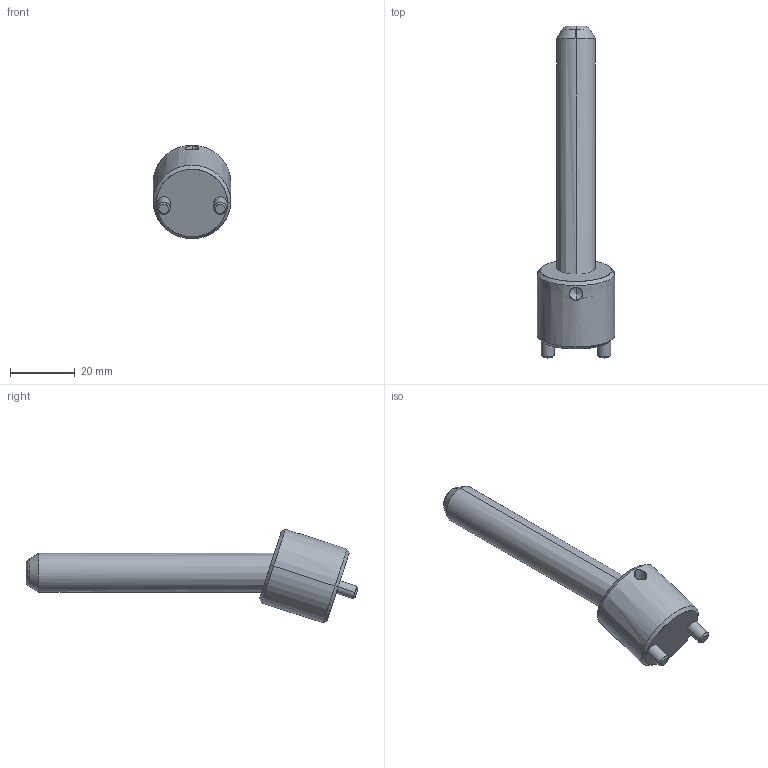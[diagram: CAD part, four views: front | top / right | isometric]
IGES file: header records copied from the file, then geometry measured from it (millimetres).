
Start section: START RECORD GO HERE.
Global section: file name: CI1812075.igs; native system: DASSAULT SYSTEMES CATIA V5 R20 - www.3ds.com; preprocessor: CATIA Version 5 Release 20 ; author: r.borello; organization: CFTORINO; date: 20190621.143540; units: millimetre
Bounding box: 24 x 102.87 x 29.01 mm (x, y, z)
Surface area: 7017.5 mm2 (no closed solid volume)
Topology: 0 solids, 0 shells, 39 faces, 162 edges, 160 vertices
Faces by surface type: revolution 32, plane 7
